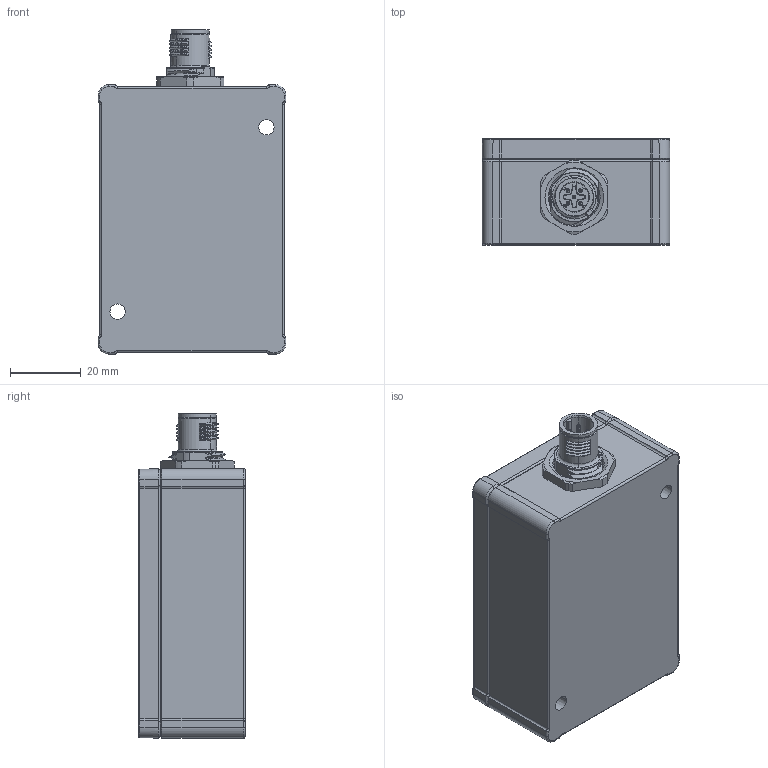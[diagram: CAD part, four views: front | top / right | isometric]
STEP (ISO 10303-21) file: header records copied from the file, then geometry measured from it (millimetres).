
FILE_DESCRIPTION (( 'STEP AP214' ), '1' );
FILE_NAME ('Gehäuse (Logo_ME) mit M12 Stecker_5pol.STEP', '2019-11-15T09:29:07', ( '' ), ( '' ), 'SwSTEP 2.0', 'SolidWorks 2019', '' );
FILE_SCHEMA (( 'AUTOMOTIVE_DESIGN' ));
Length unit declared in the file: millimetre
Products named in the file (5): Gehäuse (Logo_ME) mit M12 Stecker_5pol; Schraubenkopf; 1419645; ME Deckel mit Logo; Gehäusewanne_Z0735343-05
Assembly tree (7 placements, depth 2):
  Gehäuse (Logo_ME) mit M12 Stecker_5pol
    Gehäusewanne_Z0735343-05
    Schraubenkopf  x4
    1419645
    ME Deckel mit Logo
Bounding box: 53 x 30 x 91.5 mm (x, y, z)
Volume: 56956 mm3; surface area: 34908 mm2
Topology: 8 solids, 8 shells, 1635 faces, 4135 edges, 2551 vertices
Faces by surface type: plane 547, cylinder 451, bspline 391, cone 186, torus 48, sphere 12
Entity records: 86397 total; most frequent: CARTESIAN_POINT 38998, ORIENTED_EDGE 7936, DIRECTION 6102, EDGE_CURVE 3968, VERTEX_POINT 2479, AXIS2_PLACEMENT_3D 2125, VECTOR 1852, LINE 1852
